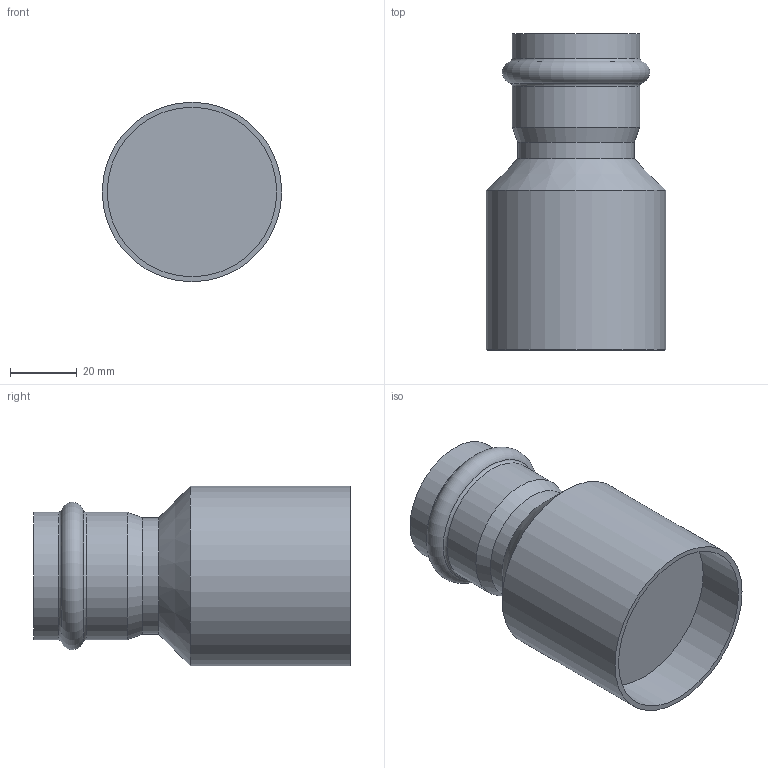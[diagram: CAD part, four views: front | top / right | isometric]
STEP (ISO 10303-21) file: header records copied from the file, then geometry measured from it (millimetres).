
FILE_DESCRIPTION(('STEP AP203'), '1');
FILE_NAME('VTi.905.I.005435', '', ('UNSPECIFIED'), ('UNSPECIFIED'), 'C3D Converter', 'C3D Toolkit', '');
FILE_SCHEMA(('CONFIG_CONTROL_DESIGN'));
Length unit declared in the file: millimetre
Bounding box: 54 x 95 x 54 mm (x, y, z)
Volume: 131054.5 mm3; surface area: 21576 mm2
Topology: 1 solids, 1 shells, 15 faces, 26 edges, 15 vertices
Faces by surface type: cylinder 6, plane 4, torus 3, cone 2
Full cylindrical faces by diameter (mm): 35 x1, 35.3 x1, 38.3 x2, 51 x1, 54 x1
Entity records: 344 total; most frequent: DIRECTION 62, CARTESIAN_POINT 46, AXIS2_PLACEMENT_3D 31, ORIENTED_EDGE 30, EDGE_LOOP 28, FACE_OUTER_BOUND 20, ADVANCED_FACE 15, EDGE_CURVE 15
